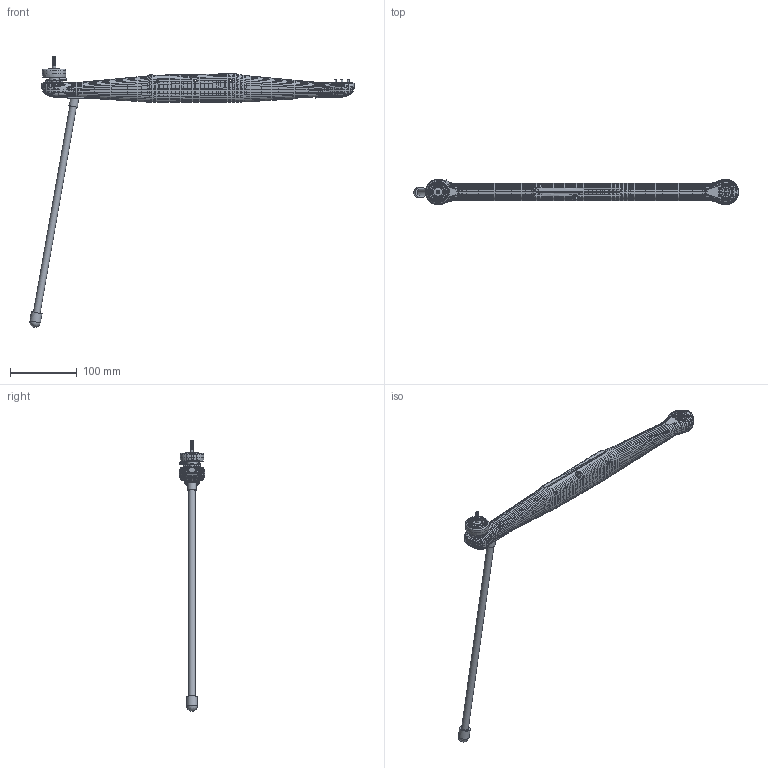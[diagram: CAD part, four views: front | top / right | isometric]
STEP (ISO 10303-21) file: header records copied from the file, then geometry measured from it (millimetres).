
FILE_DESCRIPTION(('Open CASCADE Model'),'2;1');
FILE_NAME('Open CASCADE Shape Model','2026-11-21T15:37:26',('Author'),( 'Open CASCADE'),'Open CASCADE STEP processor 7.9','Open CASCADE 7.9' ,'Unknown');
FILE_SCHEMA(('AUTOMOTIVE_DESIGN { 1 0 10303 214 1 1 1 1 }'));
Length unit declared in the file: millimetre
Products named in the file (29): RescU_R16_6_LG_Front_R_Module; LG_Front_R; LG_Front_R_Fixed; Guide_Pin_1_LG_Front_R; Guide_Pin_2_LG_Front_R; Guide_Tab_LG_Front_R; Knee_Block_LG_Front_R; REF_Servo_KST_X08H_LG_Front_R; Servo_Mount_LG_Front_R; Trough_LG_Front_R; LG_Front_R_Leg; Foot_LG_Front_R; Fork_Pin_LG_Front_R; Knee_Shaft_LG_Front_R; Knuckle_LG_Front_R; Leg_Rod_LG_Front_R; LG_Front_R_Servo_Arm; Servo_Arm_LG_Front_R; Servo_Arm_Pin_LG_Front_R; LG_Front_R_Tendon; Tendon_Bracket_LG_Front_R; Tendon_Plate_LG_Front_R; LG_Front_R_Airframe_Context; Boom_Lower_Half_Boom_R; Boom_Upper_Half_Boom_R; UM2807_Front_Boom_R; Motor_Screws_M3x10_Boom_R; Motor_Backing_Rings_6061_Boom_R; Pad_Access_Covers_Boom_R
Assembly tree (28 placements, depth 4):
  RescU_R16_6_LG_Front_R_Module
    LG_Front_R
      LG_Front_R_Fixed
        Guide_Pin_1_LG_Front_R
        Guide_Pin_2_LG_Front_R
        Guide_Tab_LG_Front_R
        Knee_Block_LG_Front_R
        REF_Servo_KST_X08H_LG_Front_R
        Servo_Mount_LG_Front_R
        Trough_LG_Front_R
      LG_Front_R_Leg
        Foot_LG_Front_R
        Fork_Pin_LG_Front_R
        Knee_Shaft_LG_Front_R
        Knuckle_LG_Front_R
        Leg_Rod_LG_Front_R
      LG_Front_R_Servo_Arm
        Servo_Arm_LG_Front_R
        Servo_Arm_Pin_LG_Front_R
      LG_Front_R_Tendon
        Tendon_Bracket_LG_Front_R
        Tendon_Plate_LG_Front_R
    LG_Front_R_Airframe_Context
      Boom_Lower_Half_Boom_R
      Boom_Upper_Half_Boom_R
      UM2807_Front_Boom_R
      Motor_Screws_M3x10_Boom_R
      Motor_Backing_Rings_6061_Boom_R
      Pad_Access_Covers_Boom_R
Bounding box: 484.91 x 38.6 x 404.4 mm (x, y, z)
Volume: 91348.7 mm3; surface area: 168328.4 mm2
Topology: 62 solids, 62 shells, 10933 faces, 23749 edges, 12848 vertices
Faces by surface type: bspline 7668, cylinder 1576, torus 1126, plane 448, sphere 113, cone 2
Full cylindrical faces by diameter (mm): 1.5 x3, 2 x4, 2.6 x1, 2.8 x2, 3 x18, 3.3 x19, 3.4 x4, 3.99 x6, 4 x32, 4.901 x5, 5 x6, 5.1 x5, 5.5 x8, 6 x1, 7 x1, 8 x1, 9.5 x1, 10 x2, 10.1 x1, 12 x4, 13 x1, 14.3 x1, 16 x1, 28.5 x1, 29.6 x2, 30 x2, 31.5 x1, 35.4 x1
Entity records: 655952 total; most frequent: CARTESIAN_POINT 228630, DIRECTION 58179, ORIENTED_EDGE 47494, PCURVE 47494, DEFINITIONAL_REPRESENTATION 47494, LINE 42850, VECTOR 42850, EDGE_CURVE 23747
